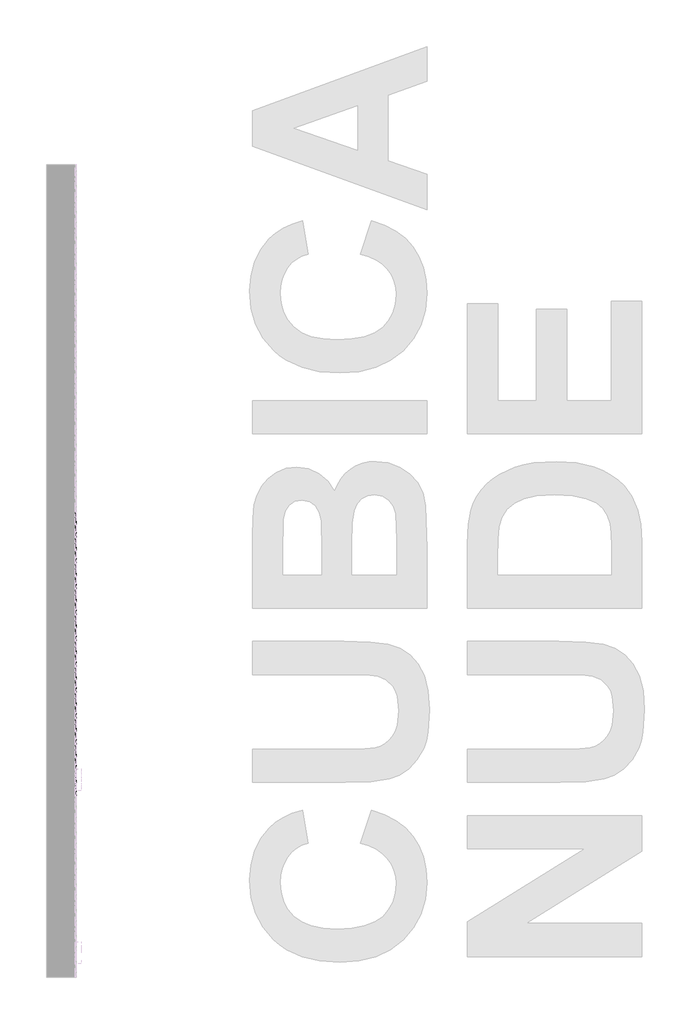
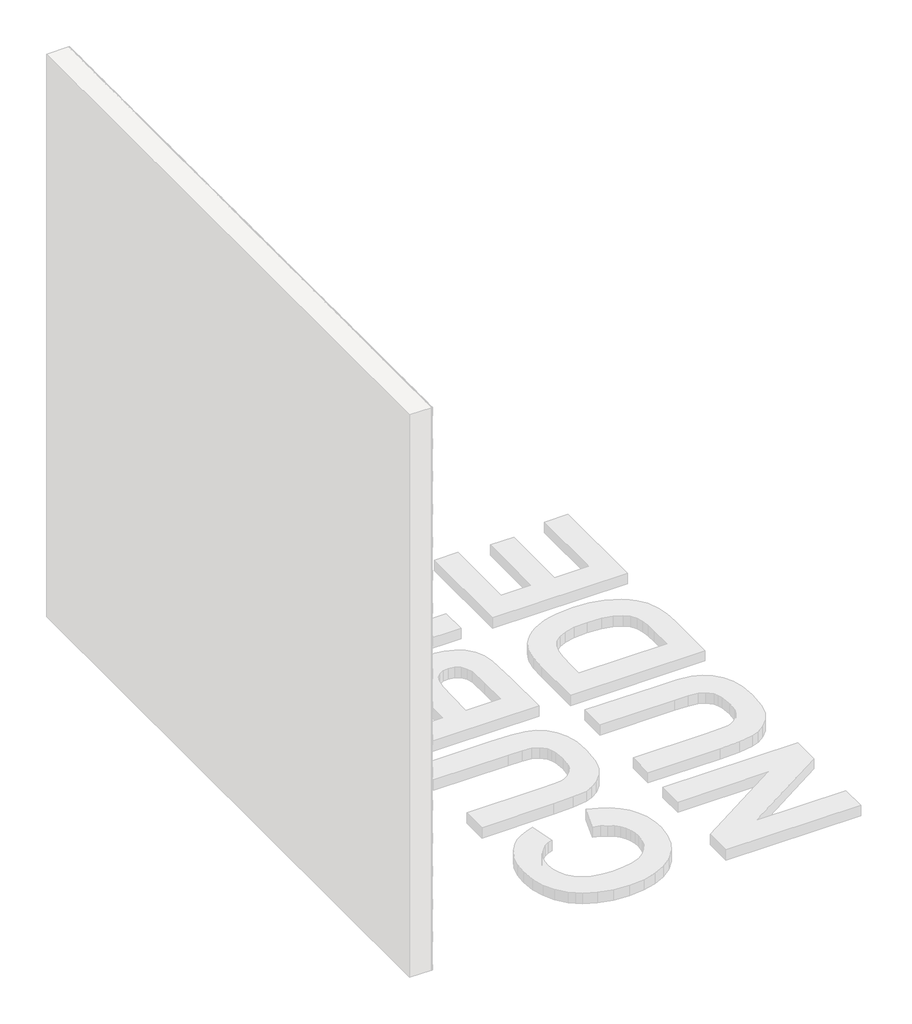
# One storey, part 57 of 121: 145 proxies.
"""IFC4 building model written with IfcOpenShell, lengths in millimetres."""

from ifc_helpers import new_model, si_unit, origin, place, context, project, spatial, transform, mapped, element, save
from components import generic_models_b2b2c5c1, generic_models_9bf73f6f, generic_models_5d175859

model = new_model("IFC4")

# Units and contexts
model_context = context("Model", 3, world=origin())
ifc_project = project(units=[si_unit("LENGTHUNIT", "METRE", prefix="MILLI")], contexts=[model_context])

# Site, building, storey
site = spatial("IfcSite", under=ifc_project)
building = spatial("IfcBuilding", under=site)
storey = spatial("IfcBuildingStorey", under=building, Name="PORTOBELLO - SHOWROOM", Elevation=0.0)

# Proxies
placement = place(None, origin())
generic_models_shape = generic_models_b2b2c5c1(model_context)
element("IfcBuildingElementProxy", 1, Name="PBSHOP - CUBICA NUDE 4,8X8,3 : CUBICA NUDE - POSIÇÃO 01", ObjectType="PBSHOP - CUBICA NUDE 4,8X8,3 : CUBICA NUDE - POSIÇÃO 01", at=placement, inside=storey, context=model_context, shape_type="MappedRepresentation", body=[
    mapped(generic_models_shape, transform((150369.5341846, 7077.8422649, 1065.5724657), x_axis=(0.0, 1.0, 0.0), y_axis=(0.0, 0.0, 1.0), z_axis=(1.0, 0.0, 0.0))),
])
element("IfcBuildingElementProxy", 2, Name="PBSHOP - CUBICA NUDE 4,8X8,3 : CUBICA NUDE - POSIÇÃO 01", ObjectType="PBSHOP - CUBICA NUDE 4,8X8,3 : CUBICA NUDE - POSIÇÃO 01", at=placement, inside=storey, context=model_context, shape_type="MappedRepresentation", body=[
    mapped(generic_models_shape, transform((150369.5341846, 7168.6815341, 1065.5724657), x_axis=(0.0, 1.0, 0.0), y_axis=(0.0, 0.0, 1.0), z_axis=(1.0, 0.0, 0.0))),
])
element("IfcBuildingElementProxy", 3, Name="PBSHOP - CUBICA NUDE 4,8X8,3 : CUBICA NUDE - POSIÇÃO 01", ObjectType="PBSHOP - CUBICA NUDE 4,8X8,3 : CUBICA NUDE - POSIÇÃO 01", at=placement, inside=storey, context=model_context, shape_type="MappedRepresentation", body=[
    mapped(generic_models_shape, transform((150369.5341846, 7259.5208034, 1065.5724657), x_axis=(0.0, 1.0, 0.0), y_axis=(0.0, 0.0, 1.0), z_axis=(1.0, 0.0, 0.0))),
])
element("IfcBuildingElementProxy", 4, Name="PBSHOP - CUBICA NUDE 4,8X8,3 : CUBICA NUDE - POSIÇÃO 01", ObjectType="PBSHOP - CUBICA NUDE 4,8X8,3 : CUBICA NUDE - POSIÇÃO 01", at=placement, inside=storey, context=model_context, shape_type="MappedRepresentation", body=[
    mapped(generic_models_shape, transform((150369.5341846, 7350.3600726, 1065.5724657), x_axis=(0.0, 1.0, 0.0), y_axis=(0.0, 0.0, 1.0), z_axis=(1.0, 0.0, 0.0))),
])
element("IfcBuildingElementProxy", 5, Name="PBSHOP - CUBICA NUDE 4,8X8,3 : CUBICA NUDE - POSIÇÃO 01", ObjectType="PBSHOP - CUBICA NUDE 4,8X8,3 : CUBICA NUDE - POSIÇÃO 01", at=placement, inside=storey, context=model_context, shape_type="MappedRepresentation", body=[
    mapped(generic_models_shape, transform((150369.5341846, 7441.1993419, 1065.5724657), x_axis=(0.0, 1.0, 0.0), y_axis=(0.0, 0.0, 1.0), z_axis=(1.0, 0.0, 0.0))),
])
element("IfcBuildingElementProxy", 6, Name="PBSHOP - CUBICA NUDE 4,8X8,3 : CUBICA NUDE - POSIÇÃO 01", ObjectType="PBSHOP - CUBICA NUDE 4,8X8,3 : CUBICA NUDE - POSIÇÃO 01", at=placement, inside=storey, context=model_context, shape_type="MappedRepresentation", body=[
    mapped(generic_models_shape, transform((150369.5341846, 7532.0386111, 1065.5724657), x_axis=(0.0, 1.0, 0.0), y_axis=(0.0, 0.0, 1.0), z_axis=(1.0, 0.0, 0.0))),
])
element("IfcBuildingElementProxy", 7, Name="PBSHOP - CUBICA NUDE 4,8X8,3 : CUBICA NUDE - POSIÇÃO 01", ObjectType="PBSHOP - CUBICA NUDE 4,8X8,3 : CUBICA NUDE - POSIÇÃO 01", at=placement, inside=storey, context=model_context, shape_type="MappedRepresentation", body=[
    mapped(generic_models_shape, transform((150369.5341846, 7622.8778804, 1065.5724657), x_axis=(0.0, 1.0, 0.0), y_axis=(0.0, 0.0, 1.0), z_axis=(1.0, 0.0, 0.0))),
])
element("IfcBuildingElementProxy", 8, Name="PBSHOP - CUBICA NUDE 4,8X8,3 : CUBICA NUDE - POSIÇÃO 01", ObjectType="PBSHOP - CUBICA NUDE 4,8X8,3 : CUBICA NUDE - POSIÇÃO 01", at=placement, inside=storey, context=model_context, shape_type="MappedRepresentation", body=[
    mapped(generic_models_shape, transform((150369.5341846, 7713.7171496, 1065.5724657), x_axis=(0.0, 1.0, 0.0), y_axis=(0.0, 0.0, 1.0), z_axis=(1.0, 0.0, 0.0))),
])
element("IfcBuildingElementProxy", 9, Name="PBSHOP - CUBICA NUDE 4,8X8,3 : CUBICA NUDE - POSIÇÃO 01", ObjectType="PBSHOP - CUBICA NUDE 4,8X8,3 : CUBICA NUDE - POSIÇÃO 01", at=placement, inside=storey, context=model_context, shape_type="MappedRepresentation", body=[
    mapped(generic_models_shape, transform((150369.5341846, 7804.5564189, 1065.5724657), x_axis=(0.0, 1.0, 0.0), y_axis=(0.0, 0.0, 1.0), z_axis=(1.0, 0.0, 0.0))),
])
element("IfcBuildingElementProxy", 10, Name="PBSHOP - CUBICA NUDE 4,8X8,3 : CUBICA NUDE - POSIÇÃO 01", ObjectType="PBSHOP - CUBICA NUDE 4,8X8,3 : CUBICA NUDE - POSIÇÃO 01", at=placement, inside=storey, context=model_context, shape_type="MappedRepresentation", body=[
    mapped(generic_models_shape, transform((150369.5341846, 7895.3956881, 1065.5724657), x_axis=(0.0, 1.0, 0.0), y_axis=(0.0, 0.0, 1.0), z_axis=(1.0, 0.0, 0.0))),
])
element("IfcBuildingElementProxy", 11, Name="PBSHOP - CUBICA NUDE 4,8X8,3 : CUBICA NUDE - POSIÇÃO 01", ObjectType="PBSHOP - CUBICA NUDE 4,8X8,3 : CUBICA NUDE - POSIÇÃO 01", at=placement, inside=storey, context=model_context, shape_type="MappedRepresentation", body=[
    mapped(generic_models_shape, transform((150369.5341846, 7986.2349573, 1065.5724657), x_axis=(0.0, 1.0, 0.0), y_axis=(0.0, 0.0, 1.0), z_axis=(1.0, 0.0, 0.0))),
])
element("IfcBuildingElementProxy", 12, Name="PBSHOP - CUBICA NUDE 4,8X8,3 : CUBICA NUDE - POSIÇÃO 01", ObjectType="PBSHOP - CUBICA NUDE 4,8X8,3 : CUBICA NUDE - POSIÇÃO 01", at=placement, inside=storey, context=model_context, shape_type="MappedRepresentation", body=[
    mapped(generic_models_shape, transform((150369.5341846, 7032.4226303, 1144.507104), x_axis=(0.0, 1.0, 0.0), y_axis=(0.0, 0.0, 1.0), z_axis=(1.0, 0.0, 0.0))),
])
element("IfcBuildingElementProxy", 13, Name="PBSHOP - CUBICA NUDE 4,8X8,3 : CUBICA NUDE - POSIÇÃO 01", ObjectType="PBSHOP - CUBICA NUDE 4,8X8,3 : CUBICA NUDE - POSIÇÃO 01", at=placement, inside=storey, context=model_context, shape_type="MappedRepresentation", body=[
    mapped(generic_models_shape, transform((150369.5341846, 7123.2618995, 1144.507104), x_axis=(0.0, 1.0, 0.0), y_axis=(0.0, 0.0, 1.0), z_axis=(1.0, 0.0, 0.0))),
])
element("IfcBuildingElementProxy", 14, Name="PBSHOP - CUBICA NUDE 4,8X8,3 : CUBICA NUDE - POSIÇÃO 01", ObjectType="PBSHOP - CUBICA NUDE 4,8X8,3 : CUBICA NUDE - POSIÇÃO 01", at=placement, inside=storey, context=model_context, shape_type="MappedRepresentation", body=[
    mapped(generic_models_shape, transform((150369.5341846, 7214.1011688, 1144.507104), x_axis=(0.0, 1.0, 0.0), y_axis=(0.0, 0.0, 1.0), z_axis=(1.0, 0.0, 0.0))),
])
element("IfcBuildingElementProxy", 15, Name="PBSHOP - CUBICA NUDE 4,8X8,3 : CUBICA NUDE - POSIÇÃO 01", ObjectType="PBSHOP - CUBICA NUDE 4,8X8,3 : CUBICA NUDE - POSIÇÃO 01", at=placement, inside=storey, context=model_context, shape_type="MappedRepresentation", body=[
    mapped(generic_models_shape, transform((150369.5341846, 7304.940438, 1144.507104), x_axis=(0.0, 1.0, 0.0), y_axis=(0.0, 0.0, 1.0), z_axis=(1.0, 0.0, 0.0))),
])
element("IfcBuildingElementProxy", 16, Name="PBSHOP - CUBICA NUDE 4,8X8,3 : CUBICA NUDE - POSIÇÃO 01", ObjectType="PBSHOP - CUBICA NUDE 4,8X8,3 : CUBICA NUDE - POSIÇÃO 01", at=placement, inside=storey, context=model_context, shape_type="MappedRepresentation", body=[
    mapped(generic_models_shape, transform((150369.5341846, 7395.7797073, 1144.507104), x_axis=(0.0, 1.0, 0.0), y_axis=(0.0, 0.0, 1.0), z_axis=(1.0, 0.0, 0.0))),
])
element("IfcBuildingElementProxy", 17, Name="PBSHOP - CUBICA NUDE 4,8X8,3 : CUBICA NUDE - POSIÇÃO 01", ObjectType="PBSHOP - CUBICA NUDE 4,8X8,3 : CUBICA NUDE - POSIÇÃO 01", at=placement, inside=storey, context=model_context, shape_type="MappedRepresentation", body=[
    mapped(generic_models_shape, transform((150369.5341846, 7486.6189765, 1144.507104), x_axis=(0.0, 1.0, 0.0), y_axis=(0.0, 0.0, 1.0), z_axis=(1.0, 0.0, 0.0))),
])
element("IfcBuildingElementProxy", 18, Name="PBSHOP - CUBICA NUDE 4,8X8,3 : CUBICA NUDE - POSIÇÃO 01", ObjectType="PBSHOP - CUBICA NUDE 4,8X8,3 : CUBICA NUDE - POSIÇÃO 01", at=placement, inside=storey, context=model_context, shape_type="MappedRepresentation", body=[
    mapped(generic_models_shape, transform((150369.5341846, 7577.4582457, 1144.507104), x_axis=(0.0, 1.0, 0.0), y_axis=(0.0, 0.0, 1.0), z_axis=(1.0, 0.0, 0.0))),
])
element("IfcBuildingElementProxy", 19, Name="PBSHOP - CUBICA NUDE 4,8X8,3 : CUBICA NUDE - POSIÇÃO 01", ObjectType="PBSHOP - CUBICA NUDE 4,8X8,3 : CUBICA NUDE - POSIÇÃO 01", at=placement, inside=storey, context=model_context, shape_type="MappedRepresentation", body=[
    mapped(generic_models_shape, transform((150369.5341846, 7668.297515, 1144.507104), x_axis=(0.0, 1.0, 0.0), y_axis=(0.0, 0.0, 1.0), z_axis=(1.0, 0.0, 0.0))),
])
element("IfcBuildingElementProxy", 20, Name="PBSHOP - CUBICA NUDE 4,8X8,3 : CUBICA NUDE - POSIÇÃO 01", ObjectType="PBSHOP - CUBICA NUDE 4,8X8,3 : CUBICA NUDE - POSIÇÃO 01", at=placement, inside=storey, context=model_context, shape_type="MappedRepresentation", body=[
    mapped(generic_models_shape, transform((150369.5341846, 7759.1367842, 1144.507104), x_axis=(0.0, 1.0, 0.0), y_axis=(0.0, 0.0, 1.0), z_axis=(1.0, 0.0, 0.0))),
])
element("IfcBuildingElementProxy", 21, Name="PBSHOP - CUBICA NUDE 4,8X8,3 : CUBICA NUDE - POSIÇÃO 01", ObjectType="PBSHOP - CUBICA NUDE 4,8X8,3 : CUBICA NUDE - POSIÇÃO 01", at=placement, inside=storey, context=model_context, shape_type="MappedRepresentation", body=[
    mapped(generic_models_shape, transform((150369.5341846, 7849.9760535, 1144.507104), x_axis=(0.0, 1.0, 0.0), y_axis=(0.0, 0.0, 1.0), z_axis=(1.0, 0.0, 0.0))),
])
element("IfcBuildingElementProxy", 22, Name="PBSHOP - CUBICA NUDE 4,8X8,3 : CUBICA NUDE - POSIÇÃO 01", ObjectType="PBSHOP - CUBICA NUDE 4,8X8,3 : CUBICA NUDE - POSIÇÃO 01", at=placement, inside=storey, context=model_context, shape_type="MappedRepresentation", body=[
    mapped(generic_models_shape, transform((150369.5341846, 7940.8153227, 1144.507104), x_axis=(0.0, 1.0, 0.0), y_axis=(0.0, 0.0, 1.0), z_axis=(1.0, 0.0, 0.0))),
])
element("IfcBuildingElementProxy", 23, Name="PBSHOP - CUBICA NUDE 4,8X8,3 : CUBICA NUDE - POSIÇÃO 01", ObjectType="PBSHOP - CUBICA NUDE 4,8X8,3 : CUBICA NUDE - POSIÇÃO 01", at=placement, inside=storey, context=model_context, shape_type="MappedRepresentation", body=[
    mapped(generic_models_shape, transform((150369.5341846, 7077.8422649, 1223.4417424), x_axis=(0.0, 1.0, 0.0), y_axis=(0.0, 0.0, 1.0), z_axis=(1.0, 0.0, 0.0))),
])
element("IfcBuildingElementProxy", 24, Name="PBSHOP - CUBICA NUDE 4,8X8,3 : CUBICA NUDE - POSIÇÃO 01", ObjectType="PBSHOP - CUBICA NUDE 4,8X8,3 : CUBICA NUDE - POSIÇÃO 01", at=placement, inside=storey, context=model_context, shape_type="MappedRepresentation", body=[
    mapped(generic_models_shape, transform((150369.5341846, 7168.6815341, 1223.4417424), x_axis=(0.0, 1.0, 0.0), y_axis=(0.0, 0.0, 1.0), z_axis=(1.0, 0.0, 0.0))),
])
element("IfcBuildingElementProxy", 25, Name="PBSHOP - CUBICA NUDE 4,8X8,3 : CUBICA NUDE - POSIÇÃO 01", ObjectType="PBSHOP - CUBICA NUDE 4,8X8,3 : CUBICA NUDE - POSIÇÃO 01", at=placement, inside=storey, context=model_context, shape_type="MappedRepresentation", body=[
    mapped(generic_models_shape, transform((150369.5341846, 7259.5208034, 1223.4417424), x_axis=(0.0, 1.0, 0.0), y_axis=(0.0, 0.0, 1.0), z_axis=(1.0, 0.0, 0.0))),
])
element("IfcBuildingElementProxy", 26, Name="PBSHOP - CUBICA NUDE 4,8X8,3 : CUBICA NUDE - POSIÇÃO 01", ObjectType="PBSHOP - CUBICA NUDE 4,8X8,3 : CUBICA NUDE - POSIÇÃO 01", at=placement, inside=storey, context=model_context, shape_type="MappedRepresentation", body=[
    mapped(generic_models_shape, transform((150369.5341846, 7350.3600726, 1223.4417424), x_axis=(0.0, 1.0, 0.0), y_axis=(0.0, 0.0, 1.0), z_axis=(1.0, 0.0, 0.0))),
])
element("IfcBuildingElementProxy", 27, Name="PBSHOP - CUBICA NUDE 4,8X8,3 : CUBICA NUDE - POSIÇÃO 01", ObjectType="PBSHOP - CUBICA NUDE 4,8X8,3 : CUBICA NUDE - POSIÇÃO 01", at=placement, inside=storey, context=model_context, shape_type="MappedRepresentation", body=[
    mapped(generic_models_shape, transform((150369.5341846, 7441.1993419, 1223.4417424), x_axis=(0.0, 1.0, 0.0), y_axis=(0.0, 0.0, 1.0), z_axis=(1.0, 0.0, 0.0))),
])
element("IfcBuildingElementProxy", 28, Name="PBSHOP - CUBICA NUDE 4,8X8,3 : CUBICA NUDE - POSIÇÃO 01", ObjectType="PBSHOP - CUBICA NUDE 4,8X8,3 : CUBICA NUDE - POSIÇÃO 01", at=placement, inside=storey, context=model_context, shape_type="MappedRepresentation", body=[
    mapped(generic_models_shape, transform((150369.5341846, 7532.0386111, 1223.4417424), x_axis=(0.0, 1.0, 0.0), y_axis=(0.0, 0.0, 1.0), z_axis=(1.0, 0.0, 0.0))),
])
element("IfcBuildingElementProxy", 29, Name="PBSHOP - CUBICA NUDE 4,8X8,3 : CUBICA NUDE - POSIÇÃO 01", ObjectType="PBSHOP - CUBICA NUDE 4,8X8,3 : CUBICA NUDE - POSIÇÃO 01", at=placement, inside=storey, context=model_context, shape_type="MappedRepresentation", body=[
    mapped(generic_models_shape, transform((150369.5341846, 7622.8778804, 1223.4417424), x_axis=(0.0, 1.0, 0.0), y_axis=(0.0, 0.0, 1.0), z_axis=(1.0, 0.0, 0.0))),
])
element("IfcBuildingElementProxy", 30, Name="PBSHOP - CUBICA NUDE 4,8X8,3 : CUBICA NUDE - POSIÇÃO 01", ObjectType="PBSHOP - CUBICA NUDE 4,8X8,3 : CUBICA NUDE - POSIÇÃO 01", at=placement, inside=storey, context=model_context, shape_type="MappedRepresentation", body=[
    mapped(generic_models_shape, transform((150369.5341846, 7713.7171496, 1223.4417424), x_axis=(0.0, 1.0, 0.0), y_axis=(0.0, 0.0, 1.0), z_axis=(1.0, 0.0, 0.0))),
])
element("IfcBuildingElementProxy", 31, Name="PBSHOP - CUBICA NUDE 4,8X8,3 : CUBICA NUDE - POSIÇÃO 01", ObjectType="PBSHOP - CUBICA NUDE 4,8X8,3 : CUBICA NUDE - POSIÇÃO 01", at=placement, inside=storey, context=model_context, shape_type="MappedRepresentation", body=[
    mapped(generic_models_shape, transform((150369.5341846, 7804.5564189, 1223.4417424), x_axis=(0.0, 1.0, 0.0), y_axis=(0.0, 0.0, 1.0), z_axis=(1.0, 0.0, 0.0))),
])
element("IfcBuildingElementProxy", 32, Name="PBSHOP - CUBICA NUDE 4,8X8,3 : CUBICA NUDE - POSIÇÃO 01", ObjectType="PBSHOP - CUBICA NUDE 4,8X8,3 : CUBICA NUDE - POSIÇÃO 01", at=placement, inside=storey, context=model_context, shape_type="MappedRepresentation", body=[
    mapped(generic_models_shape, transform((150369.5341846, 7895.3956881, 1223.4417424), x_axis=(0.0, 1.0, 0.0), y_axis=(0.0, 0.0, 1.0), z_axis=(1.0, 0.0, 0.0))),
])
element("IfcBuildingElementProxy", 33, Name="PBSHOP - CUBICA NUDE 4,8X8,3 : CUBICA NUDE - POSIÇÃO 01", ObjectType="PBSHOP - CUBICA NUDE 4,8X8,3 : CUBICA NUDE - POSIÇÃO 01", at=placement, inside=storey, context=model_context, shape_type="MappedRepresentation", body=[
    mapped(generic_models_shape, transform((150369.5341846, 7986.2349573, 1223.4417424), x_axis=(0.0, 1.0, 0.0), y_axis=(0.0, 0.0, 1.0), z_axis=(1.0, 0.0, 0.0))),
])
element("IfcBuildingElementProxy", 34, Name="PBSHOP - CUBICA NUDE 4,8X8,3 : CUBICA NUDE - POSIÇÃO 01", ObjectType="PBSHOP - CUBICA NUDE 4,8X8,3 : CUBICA NUDE - POSIÇÃO 01", at=placement, inside=storey, context=model_context, shape_type="MappedRepresentation", body=[
    mapped(generic_models_shape, transform((150369.5341846, 7032.4226303, 1302.3763808), x_axis=(0.0, 1.0, 0.0), y_axis=(0.0, 0.0, 1.0), z_axis=(1.0, 0.0, 0.0))),
])
element("IfcBuildingElementProxy", 35, Name="PBSHOP - CUBICA NUDE 4,8X8,3 : CUBICA NUDE - POSIÇÃO 01", ObjectType="PBSHOP - CUBICA NUDE 4,8X8,3 : CUBICA NUDE - POSIÇÃO 01", at=placement, inside=storey, context=model_context, shape_type="MappedRepresentation", body=[
    mapped(generic_models_shape, transform((150369.5341846, 7123.2618995, 1302.3763808), x_axis=(0.0, 1.0, 0.0), y_axis=(0.0, 0.0, 1.0), z_axis=(1.0, 0.0, 0.0))),
])
element("IfcBuildingElementProxy", 36, Name="PBSHOP - CUBICA NUDE 4,8X8,3 : CUBICA NUDE - POSIÇÃO 01", ObjectType="PBSHOP - CUBICA NUDE 4,8X8,3 : CUBICA NUDE - POSIÇÃO 01", at=placement, inside=storey, context=model_context, shape_type="MappedRepresentation", body=[
    mapped(generic_models_shape, transform((150369.5341846, 7214.1011688, 1302.3763808), x_axis=(0.0, 1.0, 0.0), y_axis=(0.0, 0.0, 1.0), z_axis=(1.0, 0.0, 0.0))),
])
element("IfcBuildingElementProxy", 37, Name="PBSHOP - CUBICA NUDE 4,8X8,3 : CUBICA NUDE - POSIÇÃO 01", ObjectType="PBSHOP - CUBICA NUDE 4,8X8,3 : CUBICA NUDE - POSIÇÃO 01", at=placement, inside=storey, context=model_context, shape_type="MappedRepresentation", body=[
    mapped(generic_models_shape, transform((150369.5341846, 7304.940438, 1302.3763808), x_axis=(0.0, 1.0, 0.0), y_axis=(0.0, 0.0, 1.0), z_axis=(1.0, 0.0, 0.0))),
])
element("IfcBuildingElementProxy", 38, Name="PBSHOP - CUBICA NUDE 4,8X8,3 : CUBICA NUDE - POSIÇÃO 01", ObjectType="PBSHOP - CUBICA NUDE 4,8X8,3 : CUBICA NUDE - POSIÇÃO 01", at=placement, inside=storey, context=model_context, shape_type="MappedRepresentation", body=[
    mapped(generic_models_shape, transform((150369.5341846, 7395.7797073, 1302.3763808), x_axis=(0.0, 1.0, 0.0), y_axis=(0.0, 0.0, 1.0), z_axis=(1.0, 0.0, 0.0))),
])
element("IfcBuildingElementProxy", 39, Name="PBSHOP - CUBICA NUDE 4,8X8,3 : CUBICA NUDE - POSIÇÃO 01", ObjectType="PBSHOP - CUBICA NUDE 4,8X8,3 : CUBICA NUDE - POSIÇÃO 01", at=placement, inside=storey, context=model_context, shape_type="MappedRepresentation", body=[
    mapped(generic_models_shape, transform((150369.5341846, 7486.6189765, 1302.3763808), x_axis=(0.0, 1.0, 0.0), y_axis=(0.0, 0.0, 1.0), z_axis=(1.0, 0.0, 0.0))),
])
element("IfcBuildingElementProxy", 40, Name="PBSHOP - CUBICA NUDE 4,8X8,3 : CUBICA NUDE - POSIÇÃO 01", ObjectType="PBSHOP - CUBICA NUDE 4,8X8,3 : CUBICA NUDE - POSIÇÃO 01", at=placement, inside=storey, context=model_context, shape_type="MappedRepresentation", body=[
    mapped(generic_models_shape, transform((150369.5341846, 7577.4582457, 1302.3763808), x_axis=(0.0, 1.0, 0.0), y_axis=(0.0, 0.0, 1.0), z_axis=(1.0, 0.0, 0.0))),
])
element("IfcBuildingElementProxy", 41, Name="PBSHOP - CUBICA NUDE 4,8X8,3 : CUBICA NUDE - POSIÇÃO 01", ObjectType="PBSHOP - CUBICA NUDE 4,8X8,3 : CUBICA NUDE - POSIÇÃO 01", at=placement, inside=storey, context=model_context, shape_type="MappedRepresentation", body=[
    mapped(generic_models_shape, transform((150369.5341846, 7668.297515, 1302.3763808), x_axis=(0.0, 1.0, 0.0), y_axis=(0.0, 0.0, 1.0), z_axis=(1.0, 0.0, 0.0))),
])
element("IfcBuildingElementProxy", 42, Name="PBSHOP - CUBICA NUDE 4,8X8,3 : CUBICA NUDE - POSIÇÃO 01", ObjectType="PBSHOP - CUBICA NUDE 4,8X8,3 : CUBICA NUDE - POSIÇÃO 01", at=placement, inside=storey, context=model_context, shape_type="MappedRepresentation", body=[
    mapped(generic_models_shape, transform((150369.5341846, 7759.1367842, 1302.3763808), x_axis=(0.0, 1.0, 0.0), y_axis=(0.0, 0.0, 1.0), z_axis=(1.0, 0.0, 0.0))),
])
element("IfcBuildingElementProxy", 43, Name="PBSHOP - CUBICA NUDE 4,8X8,3 : CUBICA NUDE - POSIÇÃO 01", ObjectType="PBSHOP - CUBICA NUDE 4,8X8,3 : CUBICA NUDE - POSIÇÃO 01", at=placement, inside=storey, context=model_context, shape_type="MappedRepresentation", body=[
    mapped(generic_models_shape, transform((150369.5341846, 7849.9760535, 1302.3763808), x_axis=(0.0, 1.0, 0.0), y_axis=(0.0, 0.0, 1.0), z_axis=(1.0, 0.0, 0.0))),
])
element("IfcBuildingElementProxy", 44, Name="PBSHOP - CUBICA NUDE 4,8X8,3 : CUBICA NUDE - POSIÇÃO 01", ObjectType="PBSHOP - CUBICA NUDE 4,8X8,3 : CUBICA NUDE - POSIÇÃO 01", at=placement, inside=storey, context=model_context, shape_type="MappedRepresentation", body=[
    mapped(generic_models_shape, transform((150369.5341846, 7940.8153227, 1302.3763808), x_axis=(0.0, 1.0, 0.0), y_axis=(0.0, 0.0, 1.0), z_axis=(1.0, 0.0, 0.0))),
])
element("IfcBuildingElementProxy", 45, Name="PBSHOP - CUBICA NUDE 4,8X8,3 : CUBICA NUDE - POSIÇÃO 01", ObjectType="PBSHOP - CUBICA NUDE 4,8X8,3 : CUBICA NUDE - POSIÇÃO 01", at=placement, inside=storey, context=model_context, shape_type="MappedRepresentation", body=[
    mapped(generic_models_shape, transform((150369.5341846, 7077.8422649, 1381.3110192), x_axis=(0.0, 1.0, 0.0), y_axis=(0.0, 0.0, 1.0), z_axis=(1.0, 0.0, 0.0))),
])
element("IfcBuildingElementProxy", 46, Name="PBSHOP - CUBICA NUDE 4,8X8,3 : CUBICA NUDE - POSIÇÃO 01", ObjectType="PBSHOP - CUBICA NUDE 4,8X8,3 : CUBICA NUDE - POSIÇÃO 01", at=placement, inside=storey, context=model_context, shape_type="MappedRepresentation", body=[
    mapped(generic_models_shape, transform((150369.5341846, 7168.6815341, 1381.3110192), x_axis=(0.0, 1.0, 0.0), y_axis=(0.0, 0.0, 1.0), z_axis=(1.0, 0.0, 0.0))),
])
element("IfcBuildingElementProxy", 47, Name="PBSHOP - CUBICA NUDE 4,8X8,3 : CUBICA NUDE - POSIÇÃO 01", ObjectType="PBSHOP - CUBICA NUDE 4,8X8,3 : CUBICA NUDE - POSIÇÃO 01", at=placement, inside=storey, context=model_context, shape_type="MappedRepresentation", body=[
    mapped(generic_models_shape, transform((150369.5341846, 7259.5208034, 1381.3110192), x_axis=(0.0, 1.0, 0.0), y_axis=(0.0, 0.0, 1.0), z_axis=(1.0, 0.0, 0.0))),
])
generic_models_2_shape = generic_models_9bf73f6f(model_context)
element("IfcBuildingElementProxy", 48, Name="PBSHOP - CUBICA NUDE 4,8X8,3 : CUBICA NUDE - POSIÇÃO 03", ObjectType="PBSHOP - CUBICA NUDE 4,8X8,3 : CUBICA NUDE - POSIÇÃO 03", at=placement, inside=storey, context=model_context, shape_type="MappedRepresentation", body=[
    mapped(generic_models_2_shape, transform((150369.5341846, 7373.0720491, 947.1292977), x_axis=(0.0, 1.0, 0.0), y_axis=(0.0, 0.0, 1.0), z_axis=(1.0, 0.0, 0.0))),
])
element("IfcBuildingElementProxy", 49, Name="PBSHOP - CUBICA NUDE 4,8X8,3 : CUBICA NUDE - POSIÇÃO 03", ObjectType="PBSHOP - CUBICA NUDE 4,8X8,3 : CUBICA NUDE - POSIÇÃO 03", at=placement, inside=storey, context=model_context, shape_type="MappedRepresentation", body=[
    mapped(generic_models_2_shape, transform((150369.5341846, 7463.9113184, 947.1292977), x_axis=(0.0, 1.0, 0.0), y_axis=(0.0, 0.0, 1.0), z_axis=(1.0, 0.0, 0.0))),
])
element("IfcBuildingElementProxy", 50, Name="PBSHOP - CUBICA NUDE 4,8X8,3 : CUBICA NUDE - POSIÇÃO 03", ObjectType="PBSHOP - CUBICA NUDE 4,8X8,3 : CUBICA NUDE - POSIÇÃO 03", at=placement, inside=storey, context=model_context, shape_type="MappedRepresentation", body=[
    mapped(generic_models_2_shape, transform((150369.5341846, 7554.7505876, 947.1292977), x_axis=(0.0, 1.0, 0.0), y_axis=(0.0, 0.0, 1.0), z_axis=(1.0, 0.0, 0.0))),
])
element("IfcBuildingElementProxy", 51, Name="PBSHOP - CUBICA NUDE 4,8X8,3 : CUBICA NUDE - POSIÇÃO 03", ObjectType="PBSHOP - CUBICA NUDE 4,8X8,3 : CUBICA NUDE - POSIÇÃO 03", at=placement, inside=storey, context=model_context, shape_type="MappedRepresentation", body=[
    mapped(generic_models_2_shape, transform((150369.5341846, 7645.5898568, 947.1292977), x_axis=(0.0, 1.0, 0.0), y_axis=(0.0, 0.0, 1.0), z_axis=(1.0, 0.0, 0.0))),
])
element("IfcBuildingElementProxy", 52, Name="PBSHOP - CUBICA NUDE 4,8X8,3 : CUBICA NUDE - POSIÇÃO 03", ObjectType="PBSHOP - CUBICA NUDE 4,8X8,3 : CUBICA NUDE - POSIÇÃO 03", at=placement, inside=storey, context=model_context, shape_type="MappedRepresentation", body=[
    mapped(generic_models_2_shape, transform((150369.5341846, 7736.4291261, 947.1292977), x_axis=(0.0, 1.0, 0.0), y_axis=(0.0, 0.0, 1.0), z_axis=(1.0, 0.0, 0.0))),
])
element("IfcBuildingElementProxy", 53, Name="PBSHOP - CUBICA NUDE 4,8X8,3 : CUBICA NUDE - POSIÇÃO 03", ObjectType="PBSHOP - CUBICA NUDE 4,8X8,3 : CUBICA NUDE - POSIÇÃO 03", at=placement, inside=storey, context=model_context, shape_type="MappedRepresentation", body=[
    mapped(generic_models_2_shape, transform((150369.5341846, 7827.2683953, 947.1292977), x_axis=(0.0, 1.0, 0.0), y_axis=(0.0, 0.0, 1.0), z_axis=(1.0, 0.0, 0.0))),
])
element("IfcBuildingElementProxy", 54, Name="PBSHOP - CUBICA NUDE 4,8X8,3 : CUBICA NUDE - POSIÇÃO 03", ObjectType="PBSHOP - CUBICA NUDE 4,8X8,3 : CUBICA NUDE - POSIÇÃO 03", at=placement, inside=storey, context=model_context, shape_type="MappedRepresentation", body=[
    mapped(generic_models_2_shape, transform((150369.5341846, 7918.1076646, 947.1292977), x_axis=(0.0, 1.0, 0.0), y_axis=(0.0, 0.0, 1.0), z_axis=(1.0, 0.0, 0.0))),
])
element("IfcBuildingElementProxy", 55, Name="PBSHOP - CUBICA NUDE 4,8X8,3 : CUBICA NUDE - POSIÇÃO 03", ObjectType="PBSHOP - CUBICA NUDE 4,8X8,3 : CUBICA NUDE - POSIÇÃO 03", at=placement, inside=storey, context=model_context, shape_type="MappedRepresentation", body=[
    mapped(generic_models_2_shape, transform((150369.5341846, 7055.1346068, 1026.0639361), x_axis=(0.0, 1.0, 0.0), y_axis=(0.0, 0.0, 1.0), z_axis=(1.0, 0.0, 0.0))),
])
element("IfcBuildingElementProxy", 56, Name="PBSHOP - CUBICA NUDE 4,8X8,3 : CUBICA NUDE - POSIÇÃO 03", ObjectType="PBSHOP - CUBICA NUDE 4,8X8,3 : CUBICA NUDE - POSIÇÃO 03", at=placement, inside=storey, context=model_context, shape_type="MappedRepresentation", body=[
    mapped(generic_models_2_shape, transform((150369.5341846, 7145.973876, 1026.0639361), x_axis=(0.0, 1.0, 0.0), y_axis=(0.0, 0.0, 1.0), z_axis=(1.0, 0.0, 0.0))),
])
element("IfcBuildingElementProxy", 57, Name="PBSHOP - CUBICA NUDE 4,8X8,3 : CUBICA NUDE - POSIÇÃO 03", ObjectType="PBSHOP - CUBICA NUDE 4,8X8,3 : CUBICA NUDE - POSIÇÃO 03", at=placement, inside=storey, context=model_context, shape_type="MappedRepresentation", body=[
    mapped(generic_models_2_shape, transform((150369.5341846, 7236.8131452, 1026.0639361), x_axis=(0.0, 1.0, 0.0), y_axis=(0.0, 0.0, 1.0), z_axis=(1.0, 0.0, 0.0))),
])
element("IfcBuildingElementProxy", 58, Name="PBSHOP - CUBICA NUDE 4,8X8,3 : CUBICA NUDE - POSIÇÃO 03", ObjectType="PBSHOP - CUBICA NUDE 4,8X8,3 : CUBICA NUDE - POSIÇÃO 03", at=placement, inside=storey, context=model_context, shape_type="MappedRepresentation", body=[
    mapped(generic_models_2_shape, transform((150369.5341846, 7327.6524145, 1026.0639361), x_axis=(0.0, 1.0, 0.0), y_axis=(0.0, 0.0, 1.0), z_axis=(1.0, 0.0, 0.0))),
])
element("IfcBuildingElementProxy", 59, Name="PBSHOP - CUBICA NUDE 4,8X8,3 : CUBICA NUDE - POSIÇÃO 03", ObjectType="PBSHOP - CUBICA NUDE 4,8X8,3 : CUBICA NUDE - POSIÇÃO 03", at=placement, inside=storey, context=model_context, shape_type="MappedRepresentation", body=[
    mapped(generic_models_2_shape, transform((150369.5341846, 7418.4916837, 1026.0639361), x_axis=(0.0, 1.0, 0.0), y_axis=(0.0, 0.0, 1.0), z_axis=(1.0, 0.0, 0.0))),
])
element("IfcBuildingElementProxy", 60, Name="PBSHOP - CUBICA NUDE 4,8X8,3 : CUBICA NUDE - POSIÇÃO 03", ObjectType="PBSHOP - CUBICA NUDE 4,8X8,3 : CUBICA NUDE - POSIÇÃO 03", at=placement, inside=storey, context=model_context, shape_type="MappedRepresentation", body=[
    mapped(generic_models_2_shape, transform((150369.5341846, 7509.330953, 1026.0639361), x_axis=(0.0, 1.0, 0.0), y_axis=(0.0, 0.0, 1.0), z_axis=(1.0, 0.0, 0.0))),
])
element("IfcBuildingElementProxy", 61, Name="PBSHOP - CUBICA NUDE 4,8X8,3 : CUBICA NUDE - POSIÇÃO 03", ObjectType="PBSHOP - CUBICA NUDE 4,8X8,3 : CUBICA NUDE - POSIÇÃO 03", at=placement, inside=storey, context=model_context, shape_type="MappedRepresentation", body=[
    mapped(generic_models_2_shape, transform((150369.5341846, 7600.1702222, 1026.0639361), x_axis=(0.0, 1.0, 0.0), y_axis=(0.0, 0.0, 1.0), z_axis=(1.0, 0.0, 0.0))),
])
element("IfcBuildingElementProxy", 62, Name="PBSHOP - CUBICA NUDE 4,8X8,3 : CUBICA NUDE - POSIÇÃO 03", ObjectType="PBSHOP - CUBICA NUDE 4,8X8,3 : CUBICA NUDE - POSIÇÃO 03", at=placement, inside=storey, context=model_context, shape_type="MappedRepresentation", body=[
    mapped(generic_models_2_shape, transform((150369.5341846, 7691.0094915, 1026.0639361), x_axis=(0.0, 1.0, 0.0), y_axis=(0.0, 0.0, 1.0), z_axis=(1.0, 0.0, 0.0))),
])
element("IfcBuildingElementProxy", 63, Name="PBSHOP - CUBICA NUDE 4,8X8,3 : CUBICA NUDE - POSIÇÃO 03", ObjectType="PBSHOP - CUBICA NUDE 4,8X8,3 : CUBICA NUDE - POSIÇÃO 03", at=placement, inside=storey, context=model_context, shape_type="MappedRepresentation", body=[
    mapped(generic_models_2_shape, transform((150369.5341846, 7781.8487607, 1026.0639361), x_axis=(0.0, 1.0, 0.0), y_axis=(0.0, 0.0, 1.0), z_axis=(1.0, 0.0, 0.0))),
])
element("IfcBuildingElementProxy", 64, Name="PBSHOP - CUBICA NUDE 4,8X8,3 : CUBICA NUDE - POSIÇÃO 03", ObjectType="PBSHOP - CUBICA NUDE 4,8X8,3 : CUBICA NUDE - POSIÇÃO 03", at=placement, inside=storey, context=model_context, shape_type="MappedRepresentation", body=[
    mapped(generic_models_2_shape, transform((150369.5341846, 7872.6880299, 1026.0639361), x_axis=(0.0, 1.0, 0.0), y_axis=(0.0, 0.0, 1.0), z_axis=(1.0, 0.0, 0.0))),
])
element("IfcBuildingElementProxy", 65, Name="PBSHOP - CUBICA NUDE 4,8X8,3 : CUBICA NUDE - POSIÇÃO 03", ObjectType="PBSHOP - CUBICA NUDE 4,8X8,3 : CUBICA NUDE - POSIÇÃO 03", at=placement, inside=storey, context=model_context, shape_type="MappedRepresentation", body=[
    mapped(generic_models_2_shape, transform((150369.5341846, 7963.5272992, 1026.0639361), x_axis=(0.0, 1.0, 0.0), y_axis=(0.0, 0.0, 1.0), z_axis=(1.0, 0.0, 0.0))),
])
element("IfcBuildingElementProxy", 66, Name="PBSHOP - CUBICA NUDE 4,8X8,3 : CUBICA NUDE - POSIÇÃO 03", ObjectType="PBSHOP - CUBICA NUDE 4,8X8,3 : CUBICA NUDE - POSIÇÃO 03", at=placement, inside=storey, context=model_context, shape_type="MappedRepresentation", body=[
    mapped(generic_models_2_shape, transform((150369.5341846, 7009.7149721, 1104.9985744), x_axis=(0.0, 1.0, 0.0), y_axis=(0.0, 0.0, 1.0), z_axis=(1.0, 0.0, 0.0))),
])
element("IfcBuildingElementProxy", 67, Name="PBSHOP - CUBICA NUDE 4,8X8,3 : CUBICA NUDE - POSIÇÃO 03", ObjectType="PBSHOP - CUBICA NUDE 4,8X8,3 : CUBICA NUDE - POSIÇÃO 03", at=placement, inside=storey, context=model_context, shape_type="MappedRepresentation", body=[
    mapped(generic_models_2_shape, transform((150369.5341846, 7100.5542414, 1104.9985744), x_axis=(0.0, 1.0, 0.0), y_axis=(0.0, 0.0, 1.0), z_axis=(1.0, 0.0, 0.0))),
])
element("IfcBuildingElementProxy", 68, Name="PBSHOP - CUBICA NUDE 4,8X8,3 : CUBICA NUDE - POSIÇÃO 03", ObjectType="PBSHOP - CUBICA NUDE 4,8X8,3 : CUBICA NUDE - POSIÇÃO 03", at=placement, inside=storey, context=model_context, shape_type="MappedRepresentation", body=[
    mapped(generic_models_2_shape, transform((150369.5341846, 7191.3935106, 1104.9985744), x_axis=(0.0, 1.0, 0.0), y_axis=(0.0, 0.0, 1.0), z_axis=(1.0, 0.0, 0.0))),
])
element("IfcBuildingElementProxy", 69, Name="PBSHOP - CUBICA NUDE 4,8X8,3 : CUBICA NUDE - POSIÇÃO 03", ObjectType="PBSHOP - CUBICA NUDE 4,8X8,3 : CUBICA NUDE - POSIÇÃO 03", at=placement, inside=storey, context=model_context, shape_type="MappedRepresentation", body=[
    mapped(generic_models_2_shape, transform((150369.5341846, 7282.2327799, 1104.9985744), x_axis=(0.0, 1.0, 0.0), y_axis=(0.0, 0.0, 1.0), z_axis=(1.0, 0.0, 0.0))),
])
element("IfcBuildingElementProxy", 70, Name="PBSHOP - CUBICA NUDE 4,8X8,3 : CUBICA NUDE - POSIÇÃO 03", ObjectType="PBSHOP - CUBICA NUDE 4,8X8,3 : CUBICA NUDE - POSIÇÃO 03", at=placement, inside=storey, context=model_context, shape_type="MappedRepresentation", body=[
    mapped(generic_models_2_shape, transform((150369.5341846, 7373.0720491, 1104.9985744), x_axis=(0.0, 1.0, 0.0), y_axis=(0.0, 0.0, 1.0), z_axis=(1.0, 0.0, 0.0))),
])
element("IfcBuildingElementProxy", 71, Name="PBSHOP - CUBICA NUDE 4,8X8,3 : CUBICA NUDE - POSIÇÃO 03", ObjectType="PBSHOP - CUBICA NUDE 4,8X8,3 : CUBICA NUDE - POSIÇÃO 03", at=placement, inside=storey, context=model_context, shape_type="MappedRepresentation", body=[
    mapped(generic_models_2_shape, transform((150369.5341846, 7463.9113184, 1104.9985744), x_axis=(0.0, 1.0, 0.0), y_axis=(0.0, 0.0, 1.0), z_axis=(1.0, 0.0, 0.0))),
])
element("IfcBuildingElementProxy", 72, Name="PBSHOP - CUBICA NUDE 4,8X8,3 : CUBICA NUDE - POSIÇÃO 03", ObjectType="PBSHOP - CUBICA NUDE 4,8X8,3 : CUBICA NUDE - POSIÇÃO 03", at=placement, inside=storey, context=model_context, shape_type="MappedRepresentation", body=[
    mapped(generic_models_2_shape, transform((150369.5341846, 7554.7505876, 1104.9985744), x_axis=(0.0, 1.0, 0.0), y_axis=(0.0, 0.0, 1.0), z_axis=(1.0, 0.0, 0.0))),
])
element("IfcBuildingElementProxy", 73, Name="PBSHOP - CUBICA NUDE 4,8X8,3 : CUBICA NUDE - POSIÇÃO 03", ObjectType="PBSHOP - CUBICA NUDE 4,8X8,3 : CUBICA NUDE - POSIÇÃO 03", at=placement, inside=storey, context=model_context, shape_type="MappedRepresentation", body=[
    mapped(generic_models_2_shape, transform((150369.5341846, 7645.5898568, 1104.9985744), x_axis=(0.0, 1.0, 0.0), y_axis=(0.0, 0.0, 1.0), z_axis=(1.0, 0.0, 0.0))),
])
element("IfcBuildingElementProxy", 74, Name="PBSHOP - CUBICA NUDE 4,8X8,3 : CUBICA NUDE - POSIÇÃO 03", ObjectType="PBSHOP - CUBICA NUDE 4,8X8,3 : CUBICA NUDE - POSIÇÃO 03", at=placement, inside=storey, context=model_context, shape_type="MappedRepresentation", body=[
    mapped(generic_models_2_shape, transform((150369.5341846, 7736.4291261, 1104.9985744), x_axis=(0.0, 1.0, 0.0), y_axis=(0.0, 0.0, 1.0), z_axis=(1.0, 0.0, 0.0))),
])
element("IfcBuildingElementProxy", 75, Name="PBSHOP - CUBICA NUDE 4,8X8,3 : CUBICA NUDE - POSIÇÃO 03", ObjectType="PBSHOP - CUBICA NUDE 4,8X8,3 : CUBICA NUDE - POSIÇÃO 03", at=placement, inside=storey, context=model_context, shape_type="MappedRepresentation", body=[
    mapped(generic_models_2_shape, transform((150369.5341846, 7827.2683953, 1104.9985744), x_axis=(0.0, 1.0, 0.0), y_axis=(0.0, 0.0, 1.0), z_axis=(1.0, 0.0, 0.0))),
])
element("IfcBuildingElementProxy", 76, Name="PBSHOP - CUBICA NUDE 4,8X8,3 : CUBICA NUDE - POSIÇÃO 03", ObjectType="PBSHOP - CUBICA NUDE 4,8X8,3 : CUBICA NUDE - POSIÇÃO 03", at=placement, inside=storey, context=model_context, shape_type="MappedRepresentation", body=[
    mapped(generic_models_2_shape, transform((150369.5341846, 7918.1076646, 1104.9985744), x_axis=(0.0, 1.0, 0.0), y_axis=(0.0, 0.0, 1.0), z_axis=(1.0, 0.0, 0.0))),
])
element("IfcBuildingElementProxy", 77, Name="PBSHOP - CUBICA NUDE 4,8X8,3 : CUBICA NUDE - POSIÇÃO 03", ObjectType="PBSHOP - CUBICA NUDE 4,8X8,3 : CUBICA NUDE - POSIÇÃO 03", at=placement, inside=storey, context=model_context, shape_type="MappedRepresentation", body=[
    mapped(generic_models_2_shape, transform((150369.5341846, 7055.1346068, 1183.9332128), x_axis=(0.0, 1.0, 0.0), y_axis=(0.0, 0.0, 1.0), z_axis=(1.0, 0.0, 0.0))),
])
element("IfcBuildingElementProxy", 78, Name="PBSHOP - CUBICA NUDE 4,8X8,3 : CUBICA NUDE - POSIÇÃO 03", ObjectType="PBSHOP - CUBICA NUDE 4,8X8,3 : CUBICA NUDE - POSIÇÃO 03", at=placement, inside=storey, context=model_context, shape_type="MappedRepresentation", body=[
    mapped(generic_models_2_shape, transform((150369.5341846, 7145.973876, 1183.9332128), x_axis=(0.0, 1.0, 0.0), y_axis=(0.0, 0.0, 1.0), z_axis=(1.0, 0.0, 0.0))),
])
element("IfcBuildingElementProxy", 79, Name="PBSHOP - CUBICA NUDE 4,8X8,3 : CUBICA NUDE - POSIÇÃO 03", ObjectType="PBSHOP - CUBICA NUDE 4,8X8,3 : CUBICA NUDE - POSIÇÃO 03", at=placement, inside=storey, context=model_context, shape_type="MappedRepresentation", body=[
    mapped(generic_models_2_shape, transform((150369.5341846, 7236.8131452, 1183.9332128), x_axis=(0.0, 1.0, 0.0), y_axis=(0.0, 0.0, 1.0), z_axis=(1.0, 0.0, 0.0))),
])
element("IfcBuildingElementProxy", 80, Name="PBSHOP - CUBICA NUDE 4,8X8,3 : CUBICA NUDE - POSIÇÃO 03", ObjectType="PBSHOP - CUBICA NUDE 4,8X8,3 : CUBICA NUDE - POSIÇÃO 03", at=placement, inside=storey, context=model_context, shape_type="MappedRepresentation", body=[
    mapped(generic_models_2_shape, transform((150369.5341846, 7327.6524145, 1183.9332128), x_axis=(0.0, 1.0, 0.0), y_axis=(0.0, 0.0, 1.0), z_axis=(1.0, 0.0, 0.0))),
])
element("IfcBuildingElementProxy", 81, Name="PBSHOP - CUBICA NUDE 4,8X8,3 : CUBICA NUDE - POSIÇÃO 03", ObjectType="PBSHOP - CUBICA NUDE 4,8X8,3 : CUBICA NUDE - POSIÇÃO 03", at=placement, inside=storey, context=model_context, shape_type="MappedRepresentation", body=[
    mapped(generic_models_2_shape, transform((150369.5341846, 7418.4916837, 1183.9332128), x_axis=(0.0, 1.0, 0.0), y_axis=(0.0, 0.0, 1.0), z_axis=(1.0, 0.0, 0.0))),
])
element("IfcBuildingElementProxy", 82, Name="PBSHOP - CUBICA NUDE 4,8X8,3 : CUBICA NUDE - POSIÇÃO 03", ObjectType="PBSHOP - CUBICA NUDE 4,8X8,3 : CUBICA NUDE - POSIÇÃO 03", at=placement, inside=storey, context=model_context, shape_type="MappedRepresentation", body=[
    mapped(generic_models_2_shape, transform((150369.5341846, 7509.330953, 1183.9332128), x_axis=(0.0, 1.0, 0.0), y_axis=(0.0, 0.0, 1.0), z_axis=(1.0, 0.0, 0.0))),
])
element("IfcBuildingElementProxy", 83, Name="PBSHOP - CUBICA NUDE 4,8X8,3 : CUBICA NUDE - POSIÇÃO 03", ObjectType="PBSHOP - CUBICA NUDE 4,8X8,3 : CUBICA NUDE - POSIÇÃO 03", at=placement, inside=storey, context=model_context, shape_type="MappedRepresentation", body=[
    mapped(generic_models_2_shape, transform((150369.5341846, 7600.1702222, 1183.9332128), x_axis=(0.0, 1.0, 0.0), y_axis=(0.0, 0.0, 1.0), z_axis=(1.0, 0.0, 0.0))),
])
element("IfcBuildingElementProxy", 84, Name="PBSHOP - CUBICA NUDE 4,8X8,3 : CUBICA NUDE - POSIÇÃO 03", ObjectType="PBSHOP - CUBICA NUDE 4,8X8,3 : CUBICA NUDE - POSIÇÃO 03", at=placement, inside=storey, context=model_context, shape_type="MappedRepresentation", body=[
    mapped(generic_models_2_shape, transform((150369.5341846, 7691.0094915, 1183.9332128), x_axis=(0.0, 1.0, 0.0), y_axis=(0.0, 0.0, 1.0), z_axis=(1.0, 0.0, 0.0))),
])
element("IfcBuildingElementProxy", 85, Name="PBSHOP - CUBICA NUDE 4,8X8,3 : CUBICA NUDE - POSIÇÃO 03", ObjectType="PBSHOP - CUBICA NUDE 4,8X8,3 : CUBICA NUDE - POSIÇÃO 03", at=placement, inside=storey, context=model_context, shape_type="MappedRepresentation", body=[
    mapped(generic_models_2_shape, transform((150369.5341846, 7781.8487607, 1183.9332128), x_axis=(0.0, 1.0, 0.0), y_axis=(0.0, 0.0, 1.0), z_axis=(1.0, 0.0, 0.0))),
])
element("IfcBuildingElementProxy", 86, Name="PBSHOP - CUBICA NUDE 4,8X8,3 : CUBICA NUDE - POSIÇÃO 03", ObjectType="PBSHOP - CUBICA NUDE 4,8X8,3 : CUBICA NUDE - POSIÇÃO 03", at=placement, inside=storey, context=model_context, shape_type="MappedRepresentation", body=[
    mapped(generic_models_2_shape, transform((150369.5341846, 7872.6880299, 1183.9332128), x_axis=(0.0, 1.0, 0.0), y_axis=(0.0, 0.0, 1.0), z_axis=(1.0, 0.0, 0.0))),
])
element("IfcBuildingElementProxy", 87, Name="PBSHOP - CUBICA NUDE 4,8X8,3 : CUBICA NUDE - POSIÇÃO 03", ObjectType="PBSHOP - CUBICA NUDE 4,8X8,3 : CUBICA NUDE - POSIÇÃO 03", at=placement, inside=storey, context=model_context, shape_type="MappedRepresentation", body=[
    mapped(generic_models_2_shape, transform((150369.5341846, 7963.5272992, 1183.9332128), x_axis=(0.0, 1.0, 0.0), y_axis=(0.0, 0.0, 1.0), z_axis=(1.0, 0.0, 0.0))),
])
element("IfcBuildingElementProxy", 88, Name="PBSHOP - CUBICA NUDE 4,8X8,3 : CUBICA NUDE - POSIÇÃO 03", ObjectType="PBSHOP - CUBICA NUDE 4,8X8,3 : CUBICA NUDE - POSIÇÃO 03", at=placement, inside=storey, context=model_context, shape_type="MappedRepresentation", body=[
    mapped(generic_models_2_shape, transform((150369.5341846, 7009.7149721, 1262.8678512), x_axis=(0.0, 1.0, 0.0), y_axis=(0.0, 0.0, 1.0), z_axis=(1.0, 0.0, 0.0))),
])
element("IfcBuildingElementProxy", 89, Name="PBSHOP - CUBICA NUDE 4,8X8,3 : CUBICA NUDE - POSIÇÃO 03", ObjectType="PBSHOP - CUBICA NUDE 4,8X8,3 : CUBICA NUDE - POSIÇÃO 03", at=placement, inside=storey, context=model_context, shape_type="MappedRepresentation", body=[
    mapped(generic_models_2_shape, transform((150369.5341846, 7100.5542414, 1262.8678512), x_axis=(0.0, 1.0, 0.0), y_axis=(0.0, 0.0, 1.0), z_axis=(1.0, 0.0, 0.0))),
])
element("IfcBuildingElementProxy", 90, Name="PBSHOP - CUBICA NUDE 4,8X8,3 : CUBICA NUDE - POSIÇÃO 03", ObjectType="PBSHOP - CUBICA NUDE 4,8X8,3 : CUBICA NUDE - POSIÇÃO 03", at=placement, inside=storey, context=model_context, shape_type="MappedRepresentation", body=[
    mapped(generic_models_2_shape, transform((150369.5341846, 7191.3935106, 1262.8678512), x_axis=(0.0, 1.0, 0.0), y_axis=(0.0, 0.0, 1.0), z_axis=(1.0, 0.0, 0.0))),
])
element("IfcBuildingElementProxy", 91, Name="PBSHOP - CUBICA NUDE 4,8X8,3 : CUBICA NUDE - POSIÇÃO 03", ObjectType="PBSHOP - CUBICA NUDE 4,8X8,3 : CUBICA NUDE - POSIÇÃO 03", at=placement, inside=storey, context=model_context, shape_type="MappedRepresentation", body=[
    mapped(generic_models_2_shape, transform((150369.5341846, 7282.2327799, 1262.8678512), x_axis=(0.0, 1.0, 0.0), y_axis=(0.0, 0.0, 1.0), z_axis=(1.0, 0.0, 0.0))),
])
element("IfcBuildingElementProxy", 92, Name="PBSHOP - CUBICA NUDE 4,8X8,3 : CUBICA NUDE - POSIÇÃO 03", ObjectType="PBSHOP - CUBICA NUDE 4,8X8,3 : CUBICA NUDE - POSIÇÃO 03", at=placement, inside=storey, context=model_context, shape_type="MappedRepresentation", body=[
    mapped(generic_models_2_shape, transform((150369.5341846, 7373.0720491, 1262.8678512), x_axis=(0.0, 1.0, 0.0), y_axis=(0.0, 0.0, 1.0), z_axis=(1.0, 0.0, 0.0))),
])
element("IfcBuildingElementProxy", 93, Name="PBSHOP - CUBICA NUDE 4,8X8,3 : CUBICA NUDE - POSIÇÃO 03", ObjectType="PBSHOP - CUBICA NUDE 4,8X8,3 : CUBICA NUDE - POSIÇÃO 03", at=placement, inside=storey, context=model_context, shape_type="MappedRepresentation", body=[
    mapped(generic_models_2_shape, transform((150369.5341846, 7463.9113184, 1262.8678512), x_axis=(0.0, 1.0, 0.0), y_axis=(0.0, 0.0, 1.0), z_axis=(1.0, 0.0, 0.0))),
])
element("IfcBuildingElementProxy", 94, Name="PBSHOP - CUBICA NUDE 4,8X8,3 : CUBICA NUDE - POSIÇÃO 03", ObjectType="PBSHOP - CUBICA NUDE 4,8X8,3 : CUBICA NUDE - POSIÇÃO 03", at=placement, inside=storey, context=model_context, shape_type="MappedRepresentation", body=[
    mapped(generic_models_2_shape, transform((150369.5341846, 7554.7505876, 1262.8678512), x_axis=(0.0, 1.0, 0.0), y_axis=(0.0, 0.0, 1.0), z_axis=(1.0, 0.0, 0.0))),
])
element("IfcBuildingElementProxy", 95, Name="PBSHOP - CUBICA NUDE 4,8X8,3 : CUBICA NUDE - POSIÇÃO 03", ObjectType="PBSHOP - CUBICA NUDE 4,8X8,3 : CUBICA NUDE - POSIÇÃO 03", at=placement, inside=storey, context=model_context, shape_type="MappedRepresentation", body=[
    mapped(generic_models_2_shape, transform((150369.5341846, 7645.5898568, 1262.8678512), x_axis=(0.0, 1.0, 0.0), y_axis=(0.0, 0.0, 1.0), z_axis=(1.0, 0.0, 0.0))),
])
element("IfcBuildingElementProxy", 96, Name="PBSHOP - CUBICA NUDE 4,8X8,3 : CUBICA NUDE - POSIÇÃO 03", ObjectType="PBSHOP - CUBICA NUDE 4,8X8,3 : CUBICA NUDE - POSIÇÃO 03", at=placement, inside=storey, context=model_context, shape_type="MappedRepresentation", body=[
    mapped(generic_models_2_shape, transform((150369.5341846, 7736.4291261, 1262.8678512), x_axis=(0.0, 1.0, 0.0), y_axis=(0.0, 0.0, 1.0), z_axis=(1.0, 0.0, 0.0))),
])
element("IfcBuildingElementProxy", 97, Name="PBSHOP - CUBICA NUDE 4,8X8,3 : CUBICA NUDE - POSIÇÃO 03", ObjectType="PBSHOP - CUBICA NUDE 4,8X8,3 : CUBICA NUDE - POSIÇÃO 03", at=placement, inside=storey, context=model_context, shape_type="MappedRepresentation", body=[
    mapped(generic_models_2_shape, transform((150369.5341846, 7827.2683953, 1262.8678512), x_axis=(0.0, 1.0, 0.0), y_axis=(0.0, 0.0, 1.0), z_axis=(1.0, 0.0, 0.0))),
])
element("IfcBuildingElementProxy", 98, Name="PBSHOP - CUBICA NUDE 4,8X8,3 : CUBICA NUDE - POSIÇÃO 03", ObjectType="PBSHOP - CUBICA NUDE 4,8X8,3 : CUBICA NUDE - POSIÇÃO 03", at=placement, inside=storey, context=model_context, shape_type="MappedRepresentation", body=[
    mapped(generic_models_2_shape, transform((150369.5341846, 7918.1076646, 1262.8678512), x_axis=(0.0, 1.0, 0.0), y_axis=(0.0, 0.0, 1.0), z_axis=(1.0, 0.0, 0.0))),
])
generic_models_3_shape = generic_models_5d175859(model_context)
element("IfcBuildingElementProxy", 99, Name="PBSHOP - CUBICA NUDE 4,8X8,3 : CUBICA NUDE - POSIÇÃO 01", ObjectType="PBSHOP - CUBICA NUDE 4,8X8,3 : CUBICA NUDE - POSIÇÃO 01", at=placement, inside=storey, context=model_context, shape_type="MappedRepresentation", body=[
    mapped(generic_models_3_shape, transform((150369.5341846, 7032.4269486, 1065.5724657), x_axis=(0.0, -1.0, 0.0), y_axis=(0.0, 0.0, -1.0), z_axis=(1.0, 0.0, 0.0))),
])
element("IfcBuildingElementProxy", 100, Name="PBSHOP - CUBICA NUDE 4,8X8,3 : CUBICA NUDE - POSIÇÃO 01", ObjectType="PBSHOP - CUBICA NUDE 4,8X8,3 : CUBICA NUDE - POSIÇÃO 01", at=placement, inside=storey, context=model_context, shape_type="MappedRepresentation", body=[
    mapped(generic_models_3_shape, transform((150369.5341846, 7123.2662179, 1065.5724657), x_axis=(0.0, -1.0, 0.0), y_axis=(0.0, 0.0, -1.0), z_axis=(1.0, 0.0, 0.0))),
])
element("IfcBuildingElementProxy", 101, Name="PBSHOP - CUBICA NUDE 4,8X8,3 : CUBICA NUDE - POSIÇÃO 01", ObjectType="PBSHOP - CUBICA NUDE 4,8X8,3 : CUBICA NUDE - POSIÇÃO 01", at=placement, inside=storey, context=model_context, shape_type="MappedRepresentation", body=[
    mapped(generic_models_3_shape, transform((150369.5341846, 7214.1054871, 1065.5724657), x_axis=(0.0, -1.0, 0.0), y_axis=(0.0, 0.0, -1.0), z_axis=(1.0, 0.0, 0.0))),
])
element("IfcBuildingElementProxy", 102, Name="PBSHOP - CUBICA NUDE 4,8X8,3 : CUBICA NUDE - POSIÇÃO 01", ObjectType="PBSHOP - CUBICA NUDE 4,8X8,3 : CUBICA NUDE - POSIÇÃO 01", at=placement, inside=storey, context=model_context, shape_type="MappedRepresentation", body=[
    mapped(generic_models_3_shape, transform((150369.5341846, 7304.9447563, 1065.5724657), x_axis=(0.0, -1.0, 0.0), y_axis=(0.0, 0.0, -1.0), z_axis=(1.0, 0.0, 0.0))),
])
element("IfcBuildingElementProxy", 103, Name="PBSHOP - CUBICA NUDE 4,8X8,3 : CUBICA NUDE - POSIÇÃO 01", ObjectType="PBSHOP - CUBICA NUDE 4,8X8,3 : CUBICA NUDE - POSIÇÃO 01", at=placement, inside=storey, context=model_context, shape_type="MappedRepresentation", body=[
    mapped(generic_models_3_shape, transform((150369.5341846, 7395.7840256, 1065.5724657), x_axis=(0.0, -1.0, 0.0), y_axis=(0.0, 0.0, -1.0), z_axis=(1.0, 0.0, 0.0))),
])
element("IfcBuildingElementProxy", 104, Name="PBSHOP - CUBICA NUDE 4,8X8,3 : CUBICA NUDE - POSIÇÃO 01", ObjectType="PBSHOP - CUBICA NUDE 4,8X8,3 : CUBICA NUDE - POSIÇÃO 01", at=placement, inside=storey, context=model_context, shape_type="MappedRepresentation", body=[
    mapped(generic_models_3_shape, transform((150369.5341846, 7486.6232948, 1065.5724657), x_axis=(0.0, -1.0, 0.0), y_axis=(0.0, 0.0, -1.0), z_axis=(1.0, 0.0, 0.0))),
])
element("IfcBuildingElementProxy", 105, Name="PBSHOP - CUBICA NUDE 4,8X8,3 : CUBICA NUDE - POSIÇÃO 01", ObjectType="PBSHOP - CUBICA NUDE 4,8X8,3 : CUBICA NUDE - POSIÇÃO 01", at=placement, inside=storey, context=model_context, shape_type="MappedRepresentation", body=[
    mapped(generic_models_3_shape, transform((150369.5341846, 7577.4625641, 1065.5724657), x_axis=(0.0, -1.0, 0.0), y_axis=(0.0, 0.0, -1.0), z_axis=(1.0, 0.0, 0.0))),
])
element("IfcBuildingElementProxy", 106, Name="PBSHOP - CUBICA NUDE 4,8X8,3 : CUBICA NUDE - POSIÇÃO 01", ObjectType="PBSHOP - CUBICA NUDE 4,8X8,3 : CUBICA NUDE - POSIÇÃO 01", at=placement, inside=storey, context=model_context, shape_type="MappedRepresentation", body=[
    mapped(generic_models_3_shape, transform((150369.5341846, 7668.3018333, 1065.5724657), x_axis=(0.0, -1.0, 0.0), y_axis=(0.0, 0.0, -1.0), z_axis=(1.0, 0.0, 0.0))),
])
element("IfcBuildingElementProxy", 107, Name="PBSHOP - CUBICA NUDE 4,8X8,3 : CUBICA NUDE - POSIÇÃO 01", ObjectType="PBSHOP - CUBICA NUDE 4,8X8,3 : CUBICA NUDE - POSIÇÃO 01", at=placement, inside=storey, context=model_context, shape_type="MappedRepresentation", body=[
    mapped(generic_models_3_shape, transform((150369.5341846, 7759.1411026, 1065.5724657), x_axis=(0.0, -1.0, 0.0), y_axis=(0.0, 0.0, -1.0), z_axis=(1.0, 0.0, 0.0))),
])
element("IfcBuildingElementProxy", 108, Name="PBSHOP - CUBICA NUDE 4,8X8,3 : CUBICA NUDE - POSIÇÃO 01", ObjectType="PBSHOP - CUBICA NUDE 4,8X8,3 : CUBICA NUDE - POSIÇÃO 01", at=placement, inside=storey, context=model_context, shape_type="MappedRepresentation", body=[
    mapped(generic_models_3_shape, transform((150369.5341846, 7849.9803718, 1065.5724657), x_axis=(0.0, -1.0, 0.0), y_axis=(0.0, 0.0, -1.0), z_axis=(1.0, 0.0, 0.0))),
])
element("IfcBuildingElementProxy", 109, Name="PBSHOP - CUBICA NUDE 4,8X8,3 : CUBICA NUDE - POSIÇÃO 01", ObjectType="PBSHOP - CUBICA NUDE 4,8X8,3 : CUBICA NUDE - POSIÇÃO 01", at=placement, inside=storey, context=model_context, shape_type="MappedRepresentation", body=[
    mapped(generic_models_3_shape, transform((150369.5341846, 7940.819641, 1065.5724657), x_axis=(0.0, -1.0, 0.0), y_axis=(0.0, 0.0, -1.0), z_axis=(1.0, 0.0, 0.0))),
])
element("IfcBuildingElementProxy", 110, Name="PBSHOP - CUBICA NUDE 4,8X8,3 : CUBICA NUDE - POSIÇÃO 01", ObjectType="PBSHOP - CUBICA NUDE 4,8X8,3 : CUBICA NUDE - POSIÇÃO 01", at=placement, inside=storey, context=model_context, shape_type="MappedRepresentation", body=[
    mapped(generic_models_3_shape, transform((150369.5341846, 7077.8465832, 1144.507104), x_axis=(0.0, -1.0, 0.0), y_axis=(0.0, 0.0, -1.0), z_axis=(1.0, 0.0, 0.0))),
])
element("IfcBuildingElementProxy", 111, Name="PBSHOP - CUBICA NUDE 4,8X8,3 : CUBICA NUDE - POSIÇÃO 01", ObjectType="PBSHOP - CUBICA NUDE 4,8X8,3 : CUBICA NUDE - POSIÇÃO 01", at=placement, inside=storey, context=model_context, shape_type="MappedRepresentation", body=[
    mapped(generic_models_3_shape, transform((150369.5341846, 7168.6858525, 1144.507104), x_axis=(0.0, -1.0, 0.0), y_axis=(0.0, 0.0, -1.0), z_axis=(1.0, 0.0, 0.0))),
])
element("IfcBuildingElementProxy", 112, Name="PBSHOP - CUBICA NUDE 4,8X8,3 : CUBICA NUDE - POSIÇÃO 01", ObjectType="PBSHOP - CUBICA NUDE 4,8X8,3 : CUBICA NUDE - POSIÇÃO 01", at=placement, inside=storey, context=model_context, shape_type="MappedRepresentation", body=[
    mapped(generic_models_3_shape, transform((150369.5341846, 7259.5251217, 1144.507104), x_axis=(0.0, -1.0, 0.0), y_axis=(0.0, 0.0, -1.0), z_axis=(1.0, 0.0, 0.0))),
])
element("IfcBuildingElementProxy", 113, Name="PBSHOP - CUBICA NUDE 4,8X8,3 : CUBICA NUDE - POSIÇÃO 01", ObjectType="PBSHOP - CUBICA NUDE 4,8X8,3 : CUBICA NUDE - POSIÇÃO 01", at=placement, inside=storey, context=model_context, shape_type="MappedRepresentation", body=[
    mapped(generic_models_3_shape, transform((150369.5341846, 7350.364391, 1144.507104), x_axis=(0.0, -1.0, 0.0), y_axis=(0.0, 0.0, -1.0), z_axis=(1.0, 0.0, 0.0))),
])
element("IfcBuildingElementProxy", 114, Name="PBSHOP - CUBICA NUDE 4,8X8,3 : CUBICA NUDE - POSIÇÃO 01", ObjectType="PBSHOP - CUBICA NUDE 4,8X8,3 : CUBICA NUDE - POSIÇÃO 01", at=placement, inside=storey, context=model_context, shape_type="MappedRepresentation", body=[
    mapped(generic_models_3_shape, transform((150369.5341846, 7441.2036602, 1144.507104), x_axis=(0.0, -1.0, 0.0), y_axis=(0.0, 0.0, -1.0), z_axis=(1.0, 0.0, 0.0))),
])
element("IfcBuildingElementProxy", 115, Name="PBSHOP - CUBICA NUDE 4,8X8,3 : CUBICA NUDE - POSIÇÃO 01", ObjectType="PBSHOP - CUBICA NUDE 4,8X8,3 : CUBICA NUDE - POSIÇÃO 01", at=placement, inside=storey, context=model_context, shape_type="MappedRepresentation", body=[
    mapped(generic_models_3_shape, transform((150369.5341846, 7532.0429295, 1144.507104), x_axis=(0.0, -1.0, 0.0), y_axis=(0.0, 0.0, -1.0), z_axis=(1.0, 0.0, 0.0))),
])
element("IfcBuildingElementProxy", 116, Name="PBSHOP - CUBICA NUDE 4,8X8,3 : CUBICA NUDE - POSIÇÃO 01", ObjectType="PBSHOP - CUBICA NUDE 4,8X8,3 : CUBICA NUDE - POSIÇÃO 01", at=placement, inside=storey, context=model_context, shape_type="MappedRepresentation", body=[
    mapped(generic_models_3_shape, transform((150369.5341846, 7622.8821987, 1144.507104), x_axis=(0.0, -1.0, 0.0), y_axis=(0.0, 0.0, -1.0), z_axis=(1.0, 0.0, 0.0))),
])
element("IfcBuildingElementProxy", 117, Name="PBSHOP - CUBICA NUDE 4,8X8,3 : CUBICA NUDE - POSIÇÃO 01", ObjectType="PBSHOP - CUBICA NUDE 4,8X8,3 : CUBICA NUDE - POSIÇÃO 01", at=placement, inside=storey, context=model_context, shape_type="MappedRepresentation", body=[
    mapped(generic_models_3_shape, transform((150369.5341846, 7713.7214679, 1144.507104), x_axis=(0.0, -1.0, 0.0), y_axis=(0.0, 0.0, -1.0), z_axis=(1.0, 0.0, 0.0))),
])
element("IfcBuildingElementProxy", 118, Name="PBSHOP - CUBICA NUDE 4,8X8,3 : CUBICA NUDE - POSIÇÃO 01", ObjectType="PBSHOP - CUBICA NUDE 4,8X8,3 : CUBICA NUDE - POSIÇÃO 01", at=placement, inside=storey, context=model_context, shape_type="MappedRepresentation", body=[
    mapped(generic_models_3_shape, transform((150369.5341846, 7804.5607372, 1144.507104), x_axis=(0.0, -1.0, 0.0), y_axis=(0.0, 0.0, -1.0), z_axis=(1.0, 0.0, 0.0))),
])
element("IfcBuildingElementProxy", 119, Name="PBSHOP - CUBICA NUDE 4,8X8,3 : CUBICA NUDE - POSIÇÃO 01", ObjectType="PBSHOP - CUBICA NUDE 4,8X8,3 : CUBICA NUDE - POSIÇÃO 01", at=placement, inside=storey, context=model_context, shape_type="MappedRepresentation", body=[
    mapped(generic_models_3_shape, transform((150369.5341846, 7895.4000064, 1144.507104), x_axis=(0.0, -1.0, 0.0), y_axis=(0.0, 0.0, -1.0), z_axis=(1.0, 0.0, 0.0))),
])
element("IfcBuildingElementProxy", 120, Name="PBSHOP - CUBICA NUDE 4,8X8,3 : CUBICA NUDE - POSIÇÃO 01", ObjectType="PBSHOP - CUBICA NUDE 4,8X8,3 : CUBICA NUDE - POSIÇÃO 01", at=placement, inside=storey, context=model_context, shape_type="MappedRepresentation", body=[
    mapped(generic_models_3_shape, transform((150369.5341846, 7986.2392757, 1144.507104), x_axis=(0.0, -1.0, 0.0), y_axis=(0.0, 0.0, -1.0), z_axis=(1.0, 0.0, 0.0))),
])
element("IfcBuildingElementProxy", 121, Name="PBSHOP - CUBICA NUDE 4,8X8,3 : CUBICA NUDE - POSIÇÃO 01", ObjectType="PBSHOP - CUBICA NUDE 4,8X8,3 : CUBICA NUDE - POSIÇÃO 01", at=placement, inside=storey, context=model_context, shape_type="MappedRepresentation", body=[
    mapped(generic_models_3_shape, transform((150369.5341846, 7032.4269486, 1223.4417424), x_axis=(0.0, -1.0, 0.0), y_axis=(0.0, 0.0, -1.0), z_axis=(1.0, 0.0, 0.0))),
])
element("IfcBuildingElementProxy", 122, Name="PBSHOP - CUBICA NUDE 4,8X8,3 : CUBICA NUDE - POSIÇÃO 01", ObjectType="PBSHOP - CUBICA NUDE 4,8X8,3 : CUBICA NUDE - POSIÇÃO 01", at=placement, inside=storey, context=model_context, shape_type="MappedRepresentation", body=[
    mapped(generic_models_3_shape, transform((150369.5341846, 7123.2662179, 1223.4417424), x_axis=(0.0, -1.0, 0.0), y_axis=(0.0, 0.0, -1.0), z_axis=(1.0, 0.0, 0.0))),
])
element("IfcBuildingElementProxy", 123, Name="PBSHOP - CUBICA NUDE 4,8X8,3 : CUBICA NUDE - POSIÇÃO 01", ObjectType="PBSHOP - CUBICA NUDE 4,8X8,3 : CUBICA NUDE - POSIÇÃO 01", at=placement, inside=storey, context=model_context, shape_type="MappedRepresentation", body=[
    mapped(generic_models_3_shape, transform((150369.5341846, 7214.1054871, 1223.4417424), x_axis=(0.0, -1.0, 0.0), y_axis=(0.0, 0.0, -1.0), z_axis=(1.0, 0.0, 0.0))),
])
element("IfcBuildingElementProxy", 124, Name="PBSHOP - CUBICA NUDE 4,8X8,3 : CUBICA NUDE - POSIÇÃO 01", ObjectType="PBSHOP - CUBICA NUDE 4,8X8,3 : CUBICA NUDE - POSIÇÃO 01", at=placement, inside=storey, context=model_context, shape_type="MappedRepresentation", body=[
    mapped(generic_models_3_shape, transform((150369.5341846, 7304.9447563, 1223.4417424), x_axis=(0.0, -1.0, 0.0), y_axis=(0.0, 0.0, -1.0), z_axis=(1.0, 0.0, 0.0))),
])
element("IfcBuildingElementProxy", 125, Name="PBSHOP - CUBICA NUDE 4,8X8,3 : CUBICA NUDE - POSIÇÃO 01", ObjectType="PBSHOP - CUBICA NUDE 4,8X8,3 : CUBICA NUDE - POSIÇÃO 01", at=placement, inside=storey, context=model_context, shape_type="MappedRepresentation", body=[
    mapped(generic_models_3_shape, transform((150369.5341846, 7395.7840256, 1223.4417424), x_axis=(0.0, -1.0, 0.0), y_axis=(0.0, 0.0, -1.0), z_axis=(1.0, 0.0, 0.0))),
])
element("IfcBuildingElementProxy", 126, Name="PBSHOP - CUBICA NUDE 4,8X8,3 : CUBICA NUDE - POSIÇÃO 01", ObjectType="PBSHOP - CUBICA NUDE 4,8X8,3 : CUBICA NUDE - POSIÇÃO 01", at=placement, inside=storey, context=model_context, shape_type="MappedRepresentation", body=[
    mapped(generic_models_3_shape, transform((150369.5341846, 7486.6232948, 1223.4417424), x_axis=(0.0, -1.0, 0.0), y_axis=(0.0, 0.0, -1.0), z_axis=(1.0, 0.0, 0.0))),
])
element("IfcBuildingElementProxy", 127, Name="PBSHOP - CUBICA NUDE 4,8X8,3 : CUBICA NUDE - POSIÇÃO 01", ObjectType="PBSHOP - CUBICA NUDE 4,8X8,3 : CUBICA NUDE - POSIÇÃO 01", at=placement, inside=storey, context=model_context, shape_type="MappedRepresentation", body=[
    mapped(generic_models_3_shape, transform((150369.5341846, 7577.4625641, 1223.4417424), x_axis=(0.0, -1.0, 0.0), y_axis=(0.0, 0.0, -1.0), z_axis=(1.0, 0.0, 0.0))),
])
element("IfcBuildingElementProxy", 128, Name="PBSHOP - CUBICA NUDE 4,8X8,3 : CUBICA NUDE - POSIÇÃO 01", ObjectType="PBSHOP - CUBICA NUDE 4,8X8,3 : CUBICA NUDE - POSIÇÃO 01", at=placement, inside=storey, context=model_context, shape_type="MappedRepresentation", body=[
    mapped(generic_models_3_shape, transform((150369.5341846, 7668.3018333, 1223.4417424), x_axis=(0.0, -1.0, 0.0), y_axis=(0.0, 0.0, -1.0), z_axis=(1.0, 0.0, 0.0))),
])
element("IfcBuildingElementProxy", 129, Name="PBSHOP - CUBICA NUDE 4,8X8,3 : CUBICA NUDE - POSIÇÃO 01", ObjectType="PBSHOP - CUBICA NUDE 4,8X8,3 : CUBICA NUDE - POSIÇÃO 01", at=placement, inside=storey, context=model_context, shape_type="MappedRepresentation", body=[
    mapped(generic_models_3_shape, transform((150369.5341846, 7759.1411026, 1223.4417424), x_axis=(0.0, -1.0, 0.0), y_axis=(0.0, 0.0, -1.0), z_axis=(1.0, 0.0, 0.0))),
])
element("IfcBuildingElementProxy", 130, Name="PBSHOP - CUBICA NUDE 4,8X8,3 : CUBICA NUDE - POSIÇÃO 01", ObjectType="PBSHOP - CUBICA NUDE 4,8X8,3 : CUBICA NUDE - POSIÇÃO 01", at=placement, inside=storey, context=model_context, shape_type="MappedRepresentation", body=[
    mapped(generic_models_3_shape, transform((150369.5341846, 7849.9803718, 1223.4417424), x_axis=(0.0, -1.0, 0.0), y_axis=(0.0, 0.0, -1.0), z_axis=(1.0, 0.0, 0.0))),
])
element("IfcBuildingElementProxy", 131, Name="PBSHOP - CUBICA NUDE 4,8X8,3 : CUBICA NUDE - POSIÇÃO 01", ObjectType="PBSHOP - CUBICA NUDE 4,8X8,3 : CUBICA NUDE - POSIÇÃO 01", at=placement, inside=storey, context=model_context, shape_type="MappedRepresentation", body=[
    mapped(generic_models_3_shape, transform((150369.5341846, 7940.819641, 1223.4417424), x_axis=(0.0, -1.0, 0.0), y_axis=(0.0, 0.0, -1.0), z_axis=(1.0, 0.0, 0.0))),
])
element("IfcBuildingElementProxy", 132, Name="PBSHOP - CUBICA NUDE 4,8X8,3 : CUBICA NUDE - POSIÇÃO 01", ObjectType="PBSHOP - CUBICA NUDE 4,8X8,3 : CUBICA NUDE - POSIÇÃO 01", at=placement, inside=storey, context=model_context, shape_type="MappedRepresentation", body=[
    mapped(generic_models_3_shape, transform((150369.5341846, 7077.8465832, 1302.3763808), x_axis=(0.0, -1.0, 0.0), y_axis=(0.0, 0.0, -1.0), z_axis=(1.0, 0.0, 0.0))),
])
element("IfcBuildingElementProxy", 133, Name="PBSHOP - CUBICA NUDE 4,8X8,3 : CUBICA NUDE - POSIÇÃO 01", ObjectType="PBSHOP - CUBICA NUDE 4,8X8,3 : CUBICA NUDE - POSIÇÃO 01", at=placement, inside=storey, context=model_context, shape_type="MappedRepresentation", body=[
    mapped(generic_models_3_shape, transform((150369.5341846, 7168.6858525, 1302.3763808), x_axis=(0.0, -1.0, 0.0), y_axis=(0.0, 0.0, -1.0), z_axis=(1.0, 0.0, 0.0))),
])
element("IfcBuildingElementProxy", 134, Name="PBSHOP - CUBICA NUDE 4,8X8,3 : CUBICA NUDE - POSIÇÃO 01", ObjectType="PBSHOP - CUBICA NUDE 4,8X8,3 : CUBICA NUDE - POSIÇÃO 01", at=placement, inside=storey, context=model_context, shape_type="MappedRepresentation", body=[
    mapped(generic_models_3_shape, transform((150369.5341846, 7259.5251217, 1302.3763808), x_axis=(0.0, -1.0, 0.0), y_axis=(0.0, 0.0, -1.0), z_axis=(1.0, 0.0, 0.0))),
])
element("IfcBuildingElementProxy", 135, Name="PBSHOP - CUBICA NUDE 4,8X8,3 : CUBICA NUDE - POSIÇÃO 01", ObjectType="PBSHOP - CUBICA NUDE 4,8X8,3 : CUBICA NUDE - POSIÇÃO 01", at=placement, inside=storey, context=model_context, shape_type="MappedRepresentation", body=[
    mapped(generic_models_3_shape, transform((150369.5341846, 7350.364391, 1302.3763808), x_axis=(0.0, -1.0, 0.0), y_axis=(0.0, 0.0, -1.0), z_axis=(1.0, 0.0, 0.0))),
])
element("IfcBuildingElementProxy", 136, Name="PBSHOP - CUBICA NUDE 4,8X8,3 : CUBICA NUDE - POSIÇÃO 01", ObjectType="PBSHOP - CUBICA NUDE 4,8X8,3 : CUBICA NUDE - POSIÇÃO 01", at=placement, inside=storey, context=model_context, shape_type="MappedRepresentation", body=[
    mapped(generic_models_3_shape, transform((150369.5341846, 7441.2036602, 1302.3763808), x_axis=(0.0, -1.0, 0.0), y_axis=(0.0, 0.0, -1.0), z_axis=(1.0, 0.0, 0.0))),
])
element("IfcBuildingElementProxy", 137, Name="PBSHOP - CUBICA NUDE 4,8X8,3 : CUBICA NUDE - POSIÇÃO 01", ObjectType="PBSHOP - CUBICA NUDE 4,8X8,3 : CUBICA NUDE - POSIÇÃO 01", at=placement, inside=storey, context=model_context, shape_type="MappedRepresentation", body=[
    mapped(generic_models_3_shape, transform((150369.5341846, 7532.0429295, 1302.3763808), x_axis=(0.0, -1.0, 0.0), y_axis=(0.0, 0.0, -1.0), z_axis=(1.0, 0.0, 0.0))),
])
element("IfcBuildingElementProxy", 138, Name="PBSHOP - CUBICA NUDE 4,8X8,3 : CUBICA NUDE - POSIÇÃO 01", ObjectType="PBSHOP - CUBICA NUDE 4,8X8,3 : CUBICA NUDE - POSIÇÃO 01", at=placement, inside=storey, context=model_context, shape_type="MappedRepresentation", body=[
    mapped(generic_models_3_shape, transform((150369.5341846, 7622.8821987, 1302.3763808), x_axis=(0.0, -1.0, 0.0), y_axis=(0.0, 0.0, -1.0), z_axis=(1.0, 0.0, 0.0))),
])
element("IfcBuildingElementProxy", 139, Name="PBSHOP - CUBICA NUDE 4,8X8,3 : CUBICA NUDE - POSIÇÃO 01", ObjectType="PBSHOP - CUBICA NUDE 4,8X8,3 : CUBICA NUDE - POSIÇÃO 01", at=placement, inside=storey, context=model_context, shape_type="MappedRepresentation", body=[
    mapped(generic_models_3_shape, transform((150369.5341846, 7713.7214679, 1302.3763808), x_axis=(0.0, -1.0, 0.0), y_axis=(0.0, 0.0, -1.0), z_axis=(1.0, 0.0, 0.0))),
])
element("IfcBuildingElementProxy", 140, Name="PBSHOP - CUBICA NUDE 4,8X8,3 : CUBICA NUDE - POSIÇÃO 01", ObjectType="PBSHOP - CUBICA NUDE 4,8X8,3 : CUBICA NUDE - POSIÇÃO 01", at=placement, inside=storey, context=model_context, shape_type="MappedRepresentation", body=[
    mapped(generic_models_3_shape, transform((150369.5341846, 7804.5607372, 1302.3763808), x_axis=(0.0, -1.0, 0.0), y_axis=(0.0, 0.0, -1.0), z_axis=(1.0, 0.0, 0.0))),
])
element("IfcBuildingElementProxy", 141, Name="PBSHOP - CUBICA NUDE 4,8X8,3 : CUBICA NUDE - POSIÇÃO 01", ObjectType="PBSHOP - CUBICA NUDE 4,8X8,3 : CUBICA NUDE - POSIÇÃO 01", at=placement, inside=storey, context=model_context, shape_type="MappedRepresentation", body=[
    mapped(generic_models_3_shape, transform((150369.5341846, 7895.4000064, 1302.3763808), x_axis=(0.0, -1.0, 0.0), y_axis=(0.0, 0.0, -1.0), z_axis=(1.0, 0.0, 0.0))),
])
element("IfcBuildingElementProxy", 142, Name="PBSHOP - CUBICA NUDE 4,8X8,3 : CUBICA NUDE - POSIÇÃO 01", ObjectType="PBSHOP - CUBICA NUDE 4,8X8,3 : CUBICA NUDE - POSIÇÃO 01", at=placement, inside=storey, context=model_context, shape_type="MappedRepresentation", body=[
    mapped(generic_models_3_shape, transform((150369.5341846, 7986.2392757, 1302.3763808), x_axis=(0.0, -1.0, 0.0), y_axis=(0.0, 0.0, -1.0), z_axis=(1.0, 0.0, 0.0))),
])
element("IfcBuildingElementProxy", 143, Name="PBSHOP - CUBICA NUDE 4,8X8,3 : CUBICA NUDE - POSIÇÃO 01", ObjectType="PBSHOP - CUBICA NUDE 4,8X8,3 : CUBICA NUDE - POSIÇÃO 01", at=placement, inside=storey, context=model_context, shape_type="MappedRepresentation", body=[
    mapped(generic_models_3_shape, transform((150369.5341846, 7032.4269486, 1381.3110192), x_axis=(0.0, -1.0, 0.0), y_axis=(0.0, 0.0, -1.0), z_axis=(1.0, 0.0, 0.0))),
])
element("IfcBuildingElementProxy", 144, Name="PBSHOP - CUBICA NUDE 4,8X8,3 : CUBICA NUDE - POSIÇÃO 01", ObjectType="PBSHOP - CUBICA NUDE 4,8X8,3 : CUBICA NUDE - POSIÇÃO 01", at=placement, inside=storey, context=model_context, shape_type="MappedRepresentation", body=[
    mapped(generic_models_3_shape, transform((150369.5341846, 7123.2662179, 1381.3110192), x_axis=(0.0, -1.0, 0.0), y_axis=(0.0, 0.0, -1.0), z_axis=(1.0, 0.0, 0.0))),
])
element("IfcBuildingElementProxy", 145, Name="PBSHOP - CUBICA NUDE 4,8X8,3 : CUBICA NUDE - POSIÇÃO 01", ObjectType="PBSHOP - CUBICA NUDE 4,8X8,3 : CUBICA NUDE - POSIÇÃO 01", at=placement, inside=storey, context=model_context, shape_type="MappedRepresentation", body=[
    mapped(generic_models_3_shape, transform((150369.5341846, 7214.1054871, 1381.3110192), x_axis=(0.0, -1.0, 0.0), y_axis=(0.0, 0.0, -1.0), z_axis=(1.0, 0.0, 0.0))),
])

save(model, "model.ifc")
